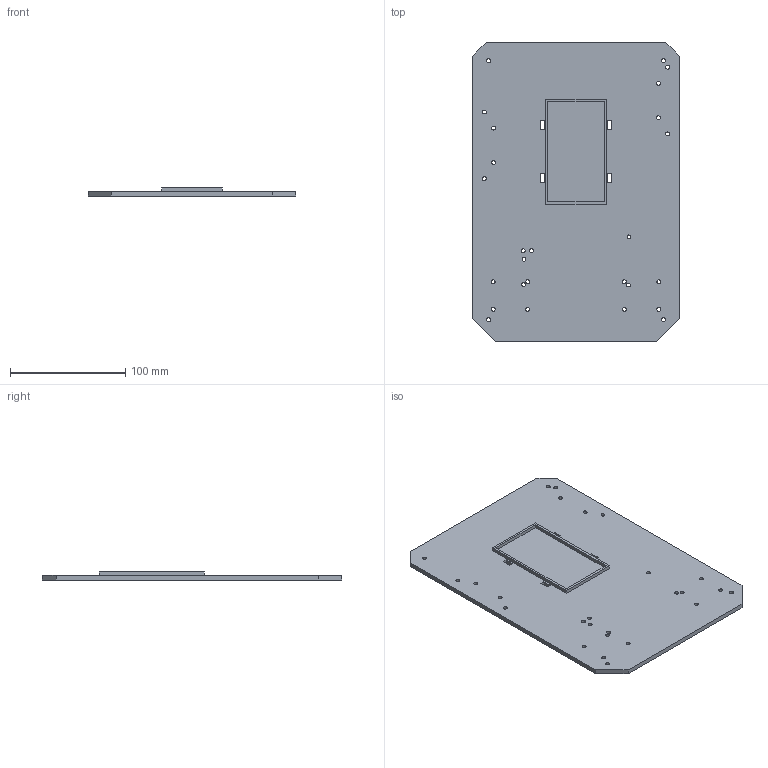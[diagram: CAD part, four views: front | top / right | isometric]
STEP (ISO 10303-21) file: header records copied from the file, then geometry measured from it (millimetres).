
FILE_DESCRIPTION(('FreeCAD Model'),'2;1');
FILE_NAME('Open CASCADE Shape Model','2026-10-15T22:53:25',('FreeCAD'),( 'FreeCAD'),'Open CASCADE STEP processor 7.8','FreeCAD','Unknown');
FILE_SCHEMA(('AUTOMOTIVE_DESIGN { 1 0 10303 214 1 1 1 1 }'));
Length unit declared in the file: millimetre
Products named in the file (1): Open CASCADE STEP translator 7.8 4
Bounding box: 180 x 260 x 7 mm (x, y, z)
Volume: 185311.8 mm3; surface area: 98344.8 mm2
Topology: 1 solids, 1 shells, 62 faces, 226 edges, 168 vertices
Faces by surface type: plane 36, cylinder 26
Full cylindrical faces by diameter (mm): 3.4 x26
Entity records: 2764 total; most frequent: CARTESIAN_POINT 977, ORIENTED_EDGE 452, DIRECTION 248, EDGE_CURVE 226, VERTEX_POINT 168, FACE_BOUND 124, EDGE_LOOP 124, LINE 122
